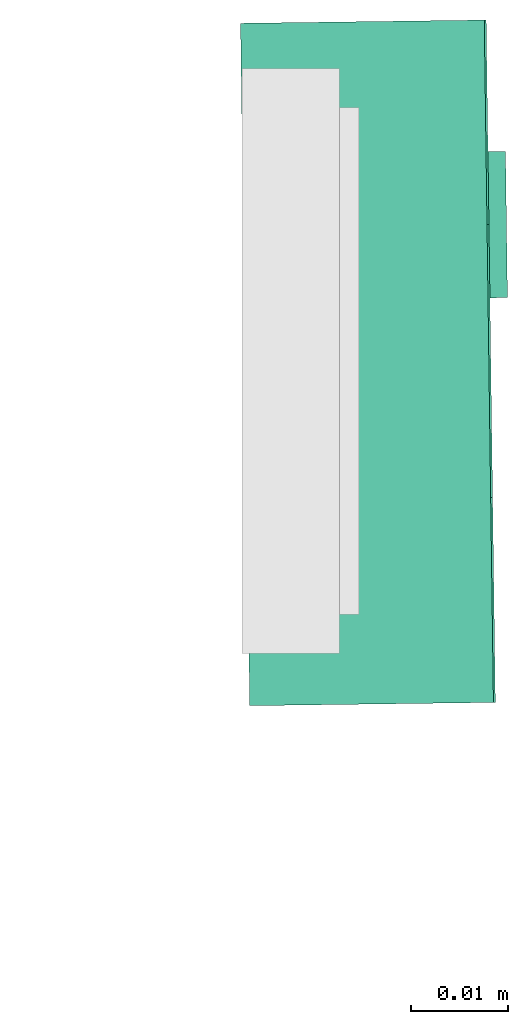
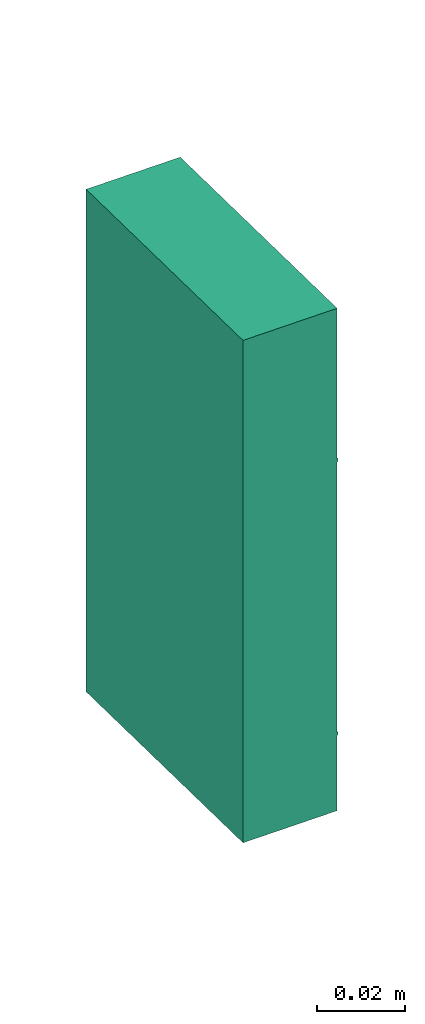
# One storey, part 2 of 5: 1 distribution control element.
"""IFC2X3 building model written with IfcOpenShell, lengths in millimetres."""

from ifc_helpers import new_model, entity, si_unit, converted_unit, derived_unit, direction, frame, origin_with_axes, place, context, subcontext, project, spatial, open_shell, surface_model, source, transform, mapped, type_object, element, save


model = new_model("IFC2X3")

# Units and contexts
model_context = context("Model", 3, precision=0.01, world=frame((0.0, 4.29681676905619e-09, 0.0)), true_north=direction((4.01073788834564e-13, 1.0)))
plan_context = context("Plan", 3, precision=0.01, world=frame((0.0, 4.29681676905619e-09, 0.0)), true_north=direction((4.01073788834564e-13, 1.0)))
body_context = subcontext(model_context, "Body", "Model", "MODEL_VIEW")
ifc_project = project(units=[converted_unit("PLANEANGLEUNIT", "DEGREE", entity("IfcPositiveLengthMeasure", 0.0174532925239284), si_unit("PLANEANGLEUNIT", "RADIAN"), dimensions=[0, 0, 0, 0, 0, 0, 0]), si_unit("AREAUNIT", "SQUARE_METRE"), si_unit("LENGTHUNIT", "METRE", prefix="MILLI"), si_unit("MASSUNIT", "GRAM", prefix="KILO"), si_unit("POWERUNIT", "WATT"), si_unit("PRESSUREUNIT", "PASCAL"), si_unit("FORCEUNIT", "NEWTON", prefix="KILO"), si_unit("ELECTRICVOLTAGEUNIT", "VOLT"), si_unit("ELECTRICCURRENTUNIT", "AMPERE"), si_unit("THERMODYNAMICTEMPERATUREUNIT", "DEGREE_CELSIUS"), si_unit("TIMEUNIT", "SECOND"), si_unit("VOLUMEUNIT", "CUBIC_METRE"), derived_unit("LINEARVELOCITYUNIT", [(si_unit("LENGTHUNIT", "METRE"), 1), (si_unit("TIMEUNIT", "SECOND"), -1)]), derived_unit("VOLUMETRICFLOWRATEUNIT", [(si_unit("VOLUMEUNIT", "CUBIC_METRE"), 1), (si_unit("TIMEUNIT", "SECOND"), -1)]), derived_unit("THERMALTRANSMITTANCEUNIT", [(si_unit("POWERUNIT", "WATT"), 1), (si_unit("THERMODYNAMICTEMPERATUREUNIT", "KELVIN"), -1), (si_unit("AREAUNIT", "SQUARE_METRE"), -1)]), derived_unit("SOUNDPRESSUREUNIT", [(si_unit("PRESSUREUNIT", "PASCAL"), 1)])], contexts=[model_context, plan_context])

# Site, building, storey
site_placement = place(None, frame((0.0, -4.29681676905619e-09, 0.0), z_axis=(0.0, 0.0, 1.0), x_axis=(1.0, 0.0, 0.0)))
site = spatial("IfcSite", under=ifc_project, at=site_placement, Name="ENGM", CompositionType="ELEMENT")
building_placement = place(site_placement, frame((0.0, 4.29681676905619e-09, 0.0), z_axis=(0.0, 0.0, 1.0), x_axis=(1.0, 0.0, 0.0)))
building = spatial("IfcBuilding", under=site, at=building_placement, Name="TS", CompositionType="ELEMENT")
storey_placement = place(building_placement, frame((0.0, 0.0, 210900.0), z_axis=(0.0, 0.0, 1.0), x_axis=(1.0, 0.0, 0.0)))
storey = spatial("IfcBuildingStorey", under=building, at=storey_placement, Name="Nivå F", CompositionType="ELEMENT", Elevation=210900.0)

# Distribution control element
alarm_type = type_object("IfcAlarmType", Name="SECURITY ALARM 3", PredefinedType="NOTDEFINED")
shared_shape = source(origin_with_axes(), body_context, "Body", "SurfaceModel", [
    surface_model("IfcShellBasedSurfaceModel", [(14.0, 25.0, 39.91502), (-14.0, 25.0, 39.91502), (14.0, 25.0, 38.91503), (-14.0, 25.0, 38.91503), (14.0, 25.2, 38.91503), (-14.0, 25.2, 38.91503), (14.0, 25.2, 39.91502), (-14.0, 25.2, 39.91502), (14.0, 25.0, 41.92565), (-14.0, 25.0, 41.92565), (14.0, 25.0, 40.92565), (-14.0, 25.0, 40.92565), (14.0, 25.2, 40.92565), (-14.0, 25.2, 40.92565), (14.0, 25.2, 41.92565), (-14.0, 25.2, 41.92565), (14.0, 25.0, 43.93627), (-14.0, 25.0, 43.93627), (14.0, 25.0, 42.93627), (-14.0, 25.0, 42.93627), (14.0, 25.2, 42.93627), (-14.0, 25.2, 42.93627), (14.0, 25.2, 43.93627), (-14.0, 25.2, 43.93627), (14.0, 25.0, 45.94689), (-14.0, 25.0, 45.94689), (14.0, 25.0, 44.94689), (-14.0, 25.0, 44.94689), (14.0, 25.2, 44.94689), (-14.0, 25.2, 44.94689), (14.0, 25.2, 45.94689), (-14.0, 25.2, 45.94689), (14.0, 25.0, 47.95751), (-14.0, 25.0, 47.95751), (14.0, 25.0, 46.95751), (-14.0, 25.0, 46.95751), (14.0, 25.2, 46.95751), (-14.0, 25.2, 46.95751), (14.0, 25.2, 47.95751), (-14.0, 25.2, 47.95751), (14.0, 25.0, 49.96813), (-14.0, 25.0, 49.96813), (14.0, 25.0, 48.96813), (-14.0, 25.0, 48.96813), (14.0, 25.2, 48.96813), (-14.0, 25.2, 48.96813), (14.0, 25.2, 49.96813), (-14.0, 25.2, 49.96813), (14.0, 25.0, 51.97875), (-14.0, 25.0, 51.97875), (14.0, 25.0, 50.97876), (-14.0, 25.0, 50.97876), (14.0, 25.2, 50.97876), (-14.0, 25.2, 50.97876), (14.0, 25.2, 51.97875), (-14.0, 25.2, 51.97875), (14.0, 25.0, 53.98938), (-14.0, 25.0, 53.98938), (14.0, 25.0, 52.98938), (-14.0, 25.0, 52.98938), (14.0, 25.2, 52.98938), (-14.0, 25.2, 52.98938), (14.0, 25.2, 53.98938), (-14.0, 25.2, 53.98938), (14.0, 25.0, 56.0), (-14.0, 25.0, 56.0), (14.0, 25.0, 55.0), (-14.0, 25.0, 55.0), (14.0, 25.2, 55.0), (-14.0, 25.2, 55.0), (14.0, 25.2, 56.0), (-14.0, 25.2, 56.0), (-35.0, 0.0, 70.0), (-35.0, 0.0, -70.0), (35.0, 0.0, -70.0), (35.0, 0.0, 70.0), (35.0, 25.0, 70.0), (35.0, 25.0, -70.0), (-35.0, 25.0, -70.0), (-35.0, 25.0, 70.0), (-21.5, 27.0, -20.2), (-21.5, 27.0, -12.2), (-6.5, 27.0, -20.2), (-6.5, 27.0, -12.2), (-6.5, 25.0, -20.2), (-6.5, 25.0, -12.2), (-21.5, 25.0, -20.2), (-21.5, 25.0, -12.2), (-7.50481, 25.0, -30.45), (-8.6967, 25.0, -39.5033), (-6.75556, 25.0, -32.25886), (-12.05886, 25.0, -26.95556), (-8.6967, 25.0, -28.8967), (-15.94114, 25.0, -41.44445), (-10.25, 25.0, -27.70481), (-6.75556, 25.0, -36.14114), (-7.50481, 25.0, -37.95), (-6.5, 25.0, -34.2), (-12.05886, 25.0, -41.44445), (-10.25, 25.0, -40.69519), (-14.0, 25.0, -41.7), (-14.0, 25.0, -26.7), (-15.94114, 25.0, -26.95556), (-17.75, 25.0, -27.70481), (-19.3033, 25.0, -28.8967), (-21.24444, 25.0, -32.25886), (-20.49519, 25.0, -30.45), (-21.5, 25.0, -34.2), (-19.3033, 25.0, -39.5033), (-17.75, 25.0, -40.69519), (-21.24444, 25.0, -36.14114), (-20.49519, 25.0, -37.95), (-21.24444, 27.0, -32.25886), (-21.24444, 27.0, -36.14114), (-21.5, 27.0, -34.2), (-19.3033, 27.0, -28.8967), (-20.49519, 27.0, -30.45), (-17.75, 27.0, -27.70481), (-15.94114, 27.0, -26.95556), (-8.6967, 27.0, -39.5033), (-15.94114, 27.0, -41.44445), (-19.3033, 27.0, -39.5033), (-20.49519, 27.0, -37.95), (-17.75, 27.0, -40.69519), (-14.0, 27.0, -41.7), (-12.05886, 27.0, -26.95556), (-7.50481, 27.0, -30.45), (-10.25, 27.0, -27.70481), (-8.6967, 27.0, -28.8967), (-6.75556, 27.0, -32.25886), (-12.05886, 27.0, -41.44445), (-10.25, 27.0, -40.69519), (-6.75556, 27.0, -36.14114), (-7.50481, 27.0, -37.95), (-6.5, 27.0, -34.2), (-14.0, 27.0, -26.7), (35.0, 25.2, -49.0), (-35.0, 25.2, -49.0), (-35.0, 25.2, -48.2), (35.0, 25.2, -48.2), (35.0, 25.0, -48.2), (-35.0, 25.0, -48.2), (-35.0, 25.0, -49.0), (35.0, 25.0, -49.0), (28.0, 25.0, 16.0), (-28.0, 25.0, 16.0), (-28.0, 25.0, 2.0), (28.0, 25.0, 2.0), (28.0, 25.2, 2.0), (-28.0, 25.2, 2.0), (-28.0, 25.2, 16.0), (28.0, 25.2, 16.0), (35.0, 25.0, 28.0), (-35.0, 25.0, 28.0), (-35.0, 25.0, 27.2), (35.0, 25.0, 27.2), (35.0, 25.2, 27.2), (-35.0, 25.2, 27.2), (-35.0, 25.2, 28.0), (35.0, 25.2, 28.0)], [open_shell([[[0, 1, 2]], [[3, 2, 1]], [[4, 5, 6]], [[7, 6, 5]], [[3, 1, 7]], [[7, 5, 3]], [[2, 3, 5]], [[5, 4, 2]], [[0, 2, 4]], [[4, 6, 0]], [[1, 0, 6]], [[6, 7, 1]], [[8, 9, 10]], [[11, 10, 9]], [[12, 13, 14]], [[15, 14, 13]], [[11, 9, 15]], [[15, 13, 11]], [[10, 11, 13]], [[13, 12, 10]], [[8, 10, 12]], [[12, 14, 8]], [[9, 8, 14]], [[14, 15, 9]], [[16, 17, 18]], [[19, 18, 17]], [[20, 21, 22]], [[23, 22, 21]], [[19, 17, 23]], [[23, 21, 19]], [[18, 19, 21]], [[21, 20, 18]], [[16, 18, 20]], [[20, 22, 16]], [[17, 16, 22]], [[22, 23, 17]], [[24, 25, 26]], [[27, 26, 25]], [[28, 29, 30]], [[31, 30, 29]], [[27, 25, 31]], [[31, 29, 27]], [[26, 27, 29]], [[29, 28, 26]], [[24, 26, 28]], [[28, 30, 24]], [[25, 24, 30]], [[30, 31, 25]], [[32, 33, 34]], [[35, 34, 33]], [[36, 37, 38]], [[39, 38, 37]], [[35, 33, 39]], [[39, 37, 35]], [[34, 35, 37]], [[37, 36, 34]], [[32, 34, 36]], [[36, 38, 32]], [[33, 32, 38]], [[38, 39, 33]], [[40, 41, 42]], [[43, 42, 41]], [[44, 45, 46]], [[47, 46, 45]], [[43, 41, 47]], [[47, 45, 43]], [[42, 43, 45]], [[45, 44, 42]], [[40, 42, 44]], [[44, 46, 40]], [[41, 40, 46]], [[46, 47, 41]], [[48, 49, 50]], [[51, 50, 49]], [[52, 53, 54]], [[55, 54, 53]], [[51, 49, 55]], [[55, 53, 51]], [[50, 51, 53]], [[53, 52, 50]], [[48, 50, 52]], [[52, 54, 48]], [[49, 48, 54]], [[54, 55, 49]], [[56, 57, 58]], [[59, 58, 57]], [[60, 61, 62]], [[63, 62, 61]], [[59, 57, 63]], [[63, 61, 59]], [[58, 59, 61]], [[61, 60, 58]], [[56, 58, 60]], [[60, 62, 56]], [[57, 56, 62]], [[62, 63, 57]], [[64, 65, 66]], [[67, 66, 65]], [[68, 69, 70]], [[71, 70, 69]], [[67, 65, 71]], [[71, 69, 67]], [[66, 67, 69]], [[69, 68, 66]], [[64, 66, 68]], [[68, 70, 64]], [[65, 64, 70]], [[70, 71, 65]], [[72, 73, 74]], [[74, 75, 72]], [[76, 77, 78]], [[78, 79, 76]], [[74, 73, 78]], [[78, 77, 74]], [[75, 74, 77]], [[77, 76, 75]], [[72, 75, 76]], [[76, 79, 72]], [[73, 72, 78]], [[79, 78, 72]], [[80, 81, 82]], [[83, 82, 81]], [[84, 85, 86]], [[87, 86, 85]], [[83, 81, 85]], [[87, 85, 81]], [[82, 83, 85]], [[85, 84, 82]], [[80, 82, 86]], [[84, 86, 82]], [[81, 80, 87]], [[86, 87, 80]], [[88, 89, 90]], [[91, 88, 92]], [[89, 88, 93]], [[91, 92, 94]], [[93, 88, 91]], [[95, 89, 96]], [[89, 95, 97]], [[89, 98, 99]], [[89, 97, 90]], [[89, 100, 98]], [[91, 101, 102]], [[102, 103, 104]], [[91, 104, 93]], [[93, 104, 105]], [[105, 104, 106]], [[93, 105, 107]], [[93, 108, 109]], [[100, 89, 93]], [[108, 110, 111]], [[108, 93, 107]], [[110, 108, 107]], [[91, 102, 104]], [[112, 113, 114]], [[115, 112, 116]], [[115, 117, 118]], [[112, 115, 119]], [[119, 120, 112]], [[113, 121, 122]], [[113, 112, 121]], [[121, 120, 123]], [[112, 120, 121]], [[120, 119, 124]], [[118, 119, 115]], [[119, 118, 125]], [[126, 125, 127]], [[119, 125, 126]], [[126, 127, 128]], [[119, 126, 129]], [[130, 119, 131]], [[124, 119, 130]], [[119, 132, 133]], [[132, 119, 134]], [[129, 134, 119]], [[118, 135, 125]], [[98, 124, 130]], [[131, 99, 130]], [[96, 119, 133]], [[119, 89, 131]], [[132, 95, 133]], [[130, 99, 98]], [[98, 100, 124]], [[95, 96, 133]], [[89, 119, 96]], [[89, 99, 131]], [[97, 95, 132]], [[132, 134, 97]], [[129, 90, 134]], [[126, 88, 129]], [[94, 128, 127]], [[128, 92, 126]], [[127, 125, 91]], [[126, 92, 88]], [[88, 90, 129]], [[101, 91, 125]], [[94, 127, 91]], [[94, 92, 128]], [[135, 101, 125]], [[134, 90, 97]], [[118, 102, 135]], [[117, 103, 118]], [[106, 115, 116]], [[117, 115, 104]], [[105, 116, 112]], [[118, 103, 102]], [[102, 101, 135]], [[105, 106, 116]], [[104, 115, 106]], [[104, 103, 117]], [[107, 105, 112]], [[112, 114, 107]], [[113, 110, 114]], [[122, 111, 113]], [[109, 121, 123]], [[122, 121, 108]], [[93, 123, 120]], [[122, 108, 111]], [[111, 110, 113]], [[100, 93, 120]], [[109, 123, 93]], [[109, 108, 121]], [[124, 100, 120]], [[114, 110, 107]], [[136, 137, 138]], [[138, 139, 136]], [[140, 141, 142]], [[142, 143, 140]], [[138, 137, 142]], [[142, 141, 138]], [[139, 138, 140]], [[141, 140, 138]], [[136, 139, 140]], [[140, 143, 136]], [[137, 136, 142]], [[143, 142, 136]], [[144, 145, 146]], [[146, 147, 144]], [[148, 149, 150]], [[150, 151, 148]], [[146, 145, 150]], [[150, 149, 146]], [[147, 146, 148]], [[149, 148, 146]], [[144, 147, 148]], [[148, 151, 144]], [[145, 144, 150]], [[151, 150, 144]], [[152, 153, 154]], [[154, 155, 152]], [[156, 157, 158]], [[158, 159, 156]], [[154, 153, 158]], [[158, 157, 154]], [[155, 154, 156]], [[157, 156, 154]], [[152, 155, 156]], [[156, 159, 152]], [[153, 152, 158]], [[159, 158, 152]]])]),
])
distribution_control_element_placement = place(storey_placement, frame((534789.31256, 461589.3, 1000.0), z_axis=(0.0, 0.0, 1.0), x_axis=(0.0134269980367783, -0.999909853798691, 0.0)))
element("IfcDistributionControlElement", 1, at=distribution_control_element_placement, inside=storey, type_object=alarm_type, Name="SECURITY ALARM 3", context=body_context, shape_type="MappedRepresentation", body=[
    mapped(shared_shape, transform((0.0, 0.0, 0.0), scale=1.0)),
])

save(model, "model.ifc")
